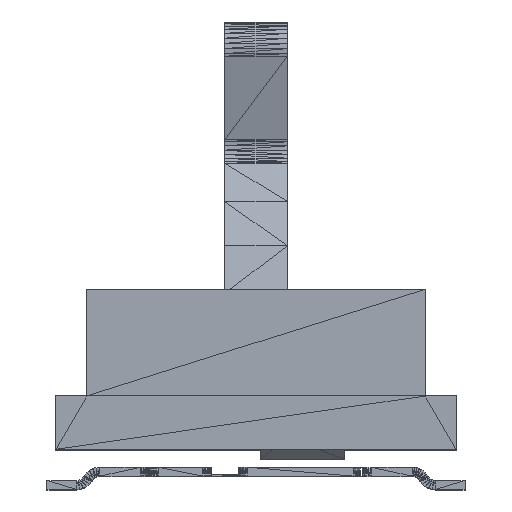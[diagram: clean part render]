
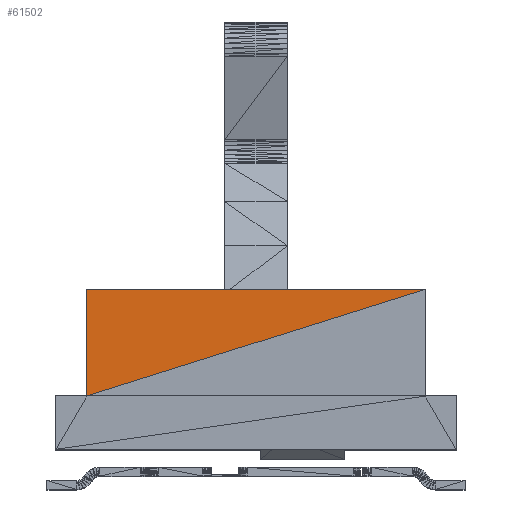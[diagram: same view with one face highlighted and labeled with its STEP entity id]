
A CAD part, top view. The second image highlights one B-rep face of the part: STEP entity #61502.
In plain terms, the highlighted planar face has unit normal (0, 0, 1).
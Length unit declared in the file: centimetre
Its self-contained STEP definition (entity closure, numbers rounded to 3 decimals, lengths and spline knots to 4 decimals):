
#2587=DIRECTION('',(0.,-1.,0.));
#4308=DIRECTION('',(-1.,0.,0.));
#4309=DIRECTION('',(-0.954,-0.301,0.));
#6836=VECTOR('',#2587,1.);
#8557=VECTOR('',#4308,1.);
#8558=VECTOR('',#4309,1.);
#9500=CARTESIAN_POINT('',(-3.7134,2.1642,0.2352));
#9502=CARTESIAN_POINT('',(-4.0934,2.1642,0.2352));
#9523=CARTESIAN_POINT('',(-4.0934,2.0442,0.2352));
#11402=VERTEX_POINT('',#9500);
#11404=VERTEX_POINT('',#9502);
#11425=VERTEX_POINT('',#9523);
#18065=LINE('',#9500,#8557);
#18105=LINE('',#9500,#8558);
#18106=LINE('',#9502,#6836);
#24107=EDGE_CURVE('',#11402,#11404,#18065,.T.);
#24147=EDGE_CURVE('',#11402,#11425,#18105,.T.);
#24148=EDGE_CURVE('',#11404,#11425,#18106,.T.);
#30149=ORIENTED_EDGE('',*,*,#24107,.T.);
#30190=ORIENTED_EDGE('',*,*,#24148,.T.);
#36231=ORIENTED_EDGE('',*,*,#24147,.F.);
#40517=EDGE_LOOP('',(#36231,#30149,#30190));
#44714=FACE_OUTER_BOUND('',#40517,.T.);
#52894=DIRECTION('',(0.,0.,1.));
#52895=AXIS2_PLACEMENT_3D('',#9523,#52894,#4309);
#57305=PLANE('',#52895);
#61502=ADVANCED_FACE('',(#44714),#57305,.T.);
